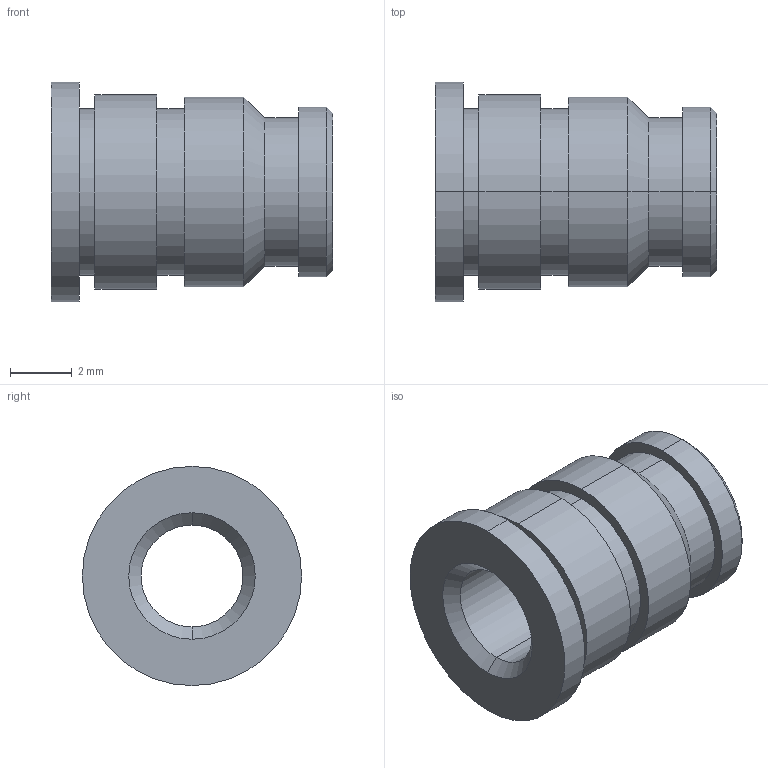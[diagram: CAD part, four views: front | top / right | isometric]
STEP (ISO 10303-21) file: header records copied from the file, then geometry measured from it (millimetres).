
FILE_DESCRIPTION (( 'STEP AP203' ), '1' );
FILE_NAME ('FSUK-HISH-M04-S.STEP', '2021-04-15T08:55:32', ( '' ), ( '' ), 'SwSTEP 2.0', 'SolidWorks 2021', '' );
FILE_SCHEMA (( 'CONFIG_CONTROL_DESIGN' ));
Length unit declared in the file: millimetre
Products named in the file (1): FSUK-HISH-M04-S
Bounding box: 9.11 x 7.1 x 7.1 mm (x, y, z)
Volume: 169.6 mm3; surface area: 352.7 mm2
Topology: 1 solids, 1 shells, 31 faces, 62 edges, 38 vertices
Faces by surface type: cylinder 16, cone 8, plane 7
Entity records: 895 total; most frequent: DIRECTION 164, CARTESIAN_POINT 132, ORIENTED_EDGE 124, AXIS2_PLACEMENT_3D 70, EDGE_CURVE 62, EDGE_LOOP 38, CIRCLE 38, VERTEX_POINT 38
